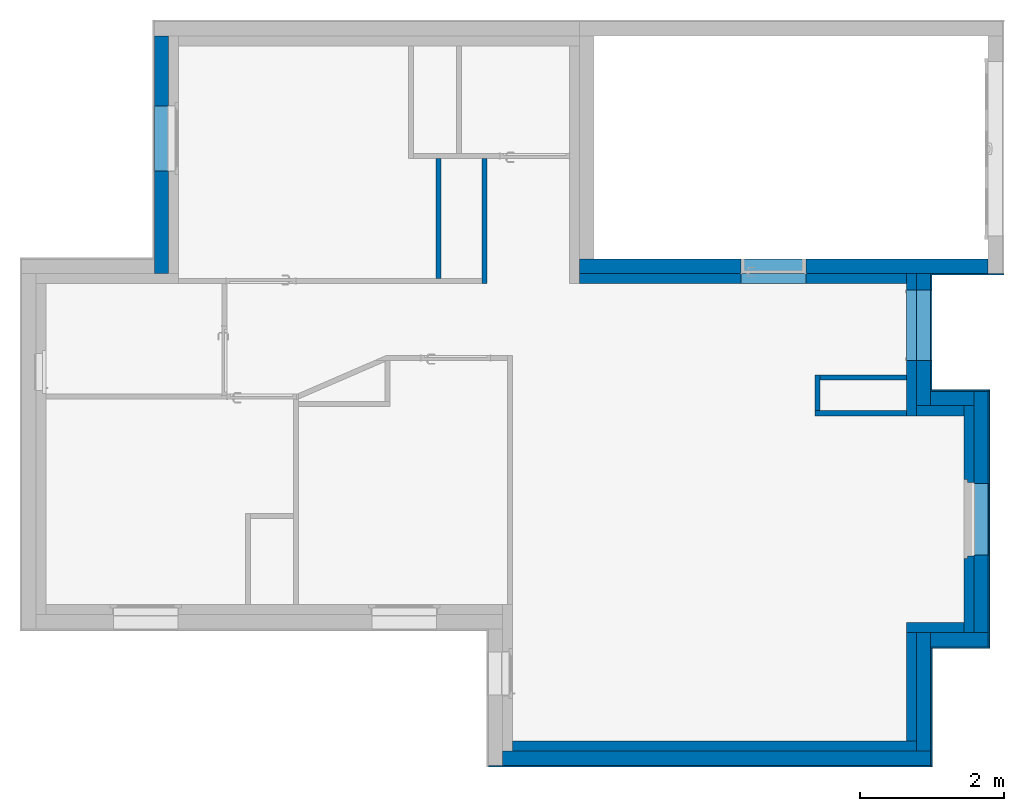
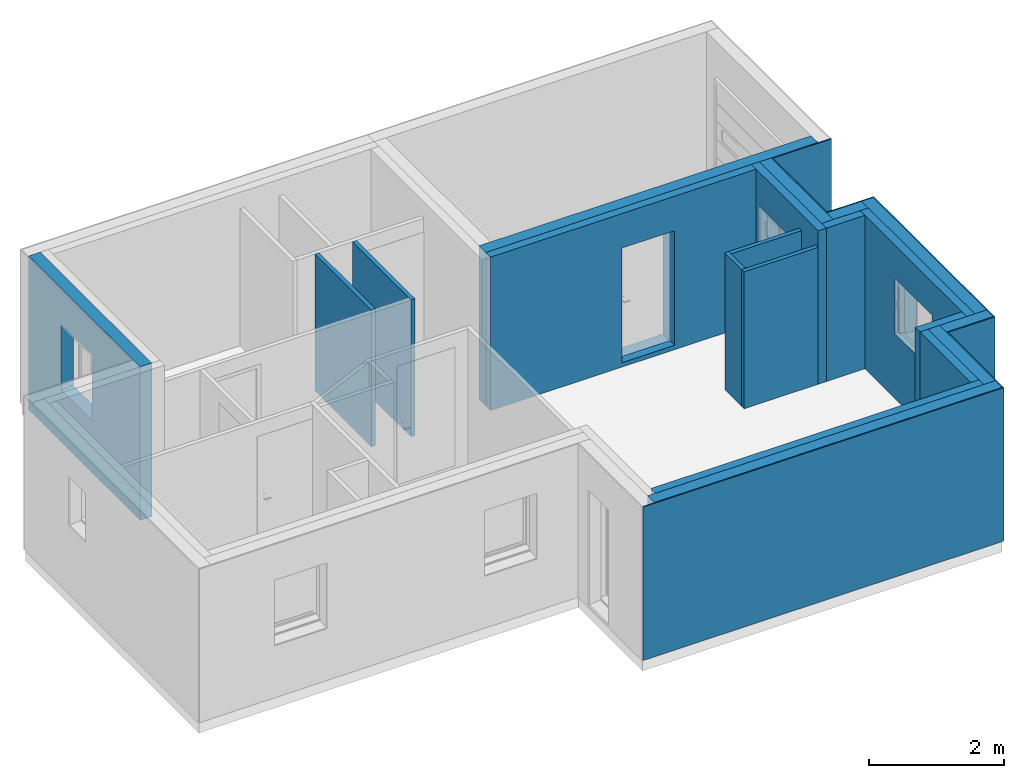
# One storey, part 5 of 11: 27 walls, 9 openings.
"""IFC2X3 building model written with IfcOpenShell, lengths in centimetres."""

from ifc_helpers import new_model, entity, si_unit, converted_unit, derived_unit, direction, frame, frame_2d, origin, origin_2d_with_axis, place, context, subcontext, project, spatial, rectangle, extrude, faceted_brep, material, layer, layer_set, layer_usage, type_object, element, save


model = new_model("IFC2X3")

# Units and contexts
model_context = context("Model", 3, precision=0.001, world=origin(), true_north=direction((6.123031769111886e-17, 1.0)))
body_context = subcontext(model_context, "Body", "Model", "MODEL_VIEW")
ifc_project = project(units=[si_unit("LENGTHUNIT", "METRE", prefix="CENTI"), si_unit("AREAUNIT", "SQUARE_METRE"), si_unit("VOLUMEUNIT", "CUBIC_METRE"), converted_unit("PLANEANGLEUNIT", "DEGREE", entity("IfcRatioMeasure", 0.017453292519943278), si_unit("PLANEANGLEUNIT", "RADIAN"), dimensions=[0, 0, 0, 0, 0, 0, 0]), si_unit("MASSUNIT", "GRAM", prefix="KILO"), derived_unit("MASSDENSITYUNIT", [(si_unit("MASSUNIT", "GRAM", prefix="KILO"), 1), (si_unit("LENGTHUNIT", "METRE"), -3)]), derived_unit("MOMENTOFINERTIAUNIT", [(si_unit("LENGTHUNIT", "METRE"), 4)]), si_unit("TIMEUNIT", "SECOND"), si_unit("FREQUENCYUNIT", "HERTZ"), si_unit("THERMODYNAMICTEMPERATUREUNIT", "DEGREE_CELSIUS"), derived_unit("THERMALTRANSMITTANCEUNIT", [(si_unit("MASSUNIT", "GRAM", prefix="KILO"), 1), (si_unit("THERMODYNAMICTEMPERATUREUNIT", "KELVIN"), -1), (si_unit("TIMEUNIT", "SECOND"), -3)]), derived_unit("VOLUMETRICFLOWRATEUNIT", [(si_unit("LENGTHUNIT", "METRE"), 3), (si_unit("TIMEUNIT", "SECOND"), -1)]), derived_unit("MASSFLOWRATEUNIT", [(si_unit("MASSUNIT", "GRAM", prefix="KILO"), 1), (si_unit("TIMEUNIT", "SECOND"), -1)]), derived_unit("ROTATIONALFREQUENCYUNIT", [(si_unit("TIMEUNIT", "SECOND"), -1)]), si_unit("ELECTRICCURRENTUNIT", "AMPERE"), si_unit("ELECTRICVOLTAGEUNIT", "VOLT"), si_unit("POWERUNIT", "WATT"), si_unit("FORCEUNIT", "NEWTON", prefix="KILO"), si_unit("ILLUMINANCEUNIT", "LUX"), si_unit("LUMINOUSFLUXUNIT", "LUMEN"), si_unit("LUMINOUSINTENSITYUNIT", "CANDELA"), derived_unit("USERDEFINED", [(si_unit("MASSUNIT", "GRAM", prefix="KILO"), -1), (si_unit("LENGTHUNIT", "METRE"), -2), (si_unit("TIMEUNIT", "SECOND"), 3), (si_unit("LUMINOUSFLUXUNIT", "LUMEN"), 1)]), derived_unit("SOUNDPOWERUNIT", [(si_unit("MASSUNIT", "GRAM", prefix="KILO"), 1), (si_unit("LENGTHUNIT", "METRE"), 2), (si_unit("TIMEUNIT", "SECOND"), -3)]), derived_unit("SOUNDPRESSUREUNIT", [(si_unit("MASSUNIT", "GRAM", prefix="KILO"), 1), (si_unit("LENGTHUNIT", "METRE"), -1), (si_unit("TIMEUNIT", "SECOND"), -2)]), derived_unit("LINEARVELOCITYUNIT", [(si_unit("LENGTHUNIT", "METRE"), 1), (si_unit("TIMEUNIT", "SECOND"), -1)]), si_unit("PRESSUREUNIT", "PASCAL"), derived_unit("USERDEFINED", [(si_unit("LENGTHUNIT", "METRE"), -2), (si_unit("MASSUNIT", "GRAM", prefix="KILO"), 1), (si_unit("TIMEUNIT", "SECOND"), -2)]), derived_unit("LINEARFORCEUNIT", [(si_unit("MASSUNIT", "GRAM", prefix="KILO"), 1), (si_unit("LENGTHUNIT", "METRE"), 1), (si_unit("TIMEUNIT", "SECOND"), -2), (si_unit("LENGTHUNIT", "METRE"), -1)]), derived_unit("PLANARFORCEUNIT", [(si_unit("MASSUNIT", "GRAM", prefix="KILO"), 1), (si_unit("LENGTHUNIT", "METRE"), 1), (si_unit("TIMEUNIT", "SECOND"), -2), (si_unit("LENGTHUNIT", "METRE"), -2)])], contexts=[model_context])

# Site, building, storey
site_placement = place(None, origin())
site = spatial("IfcSite", under=ifc_project, at=site_placement, Name="Default", CompositionType="ELEMENT")
building_placement = place(site_placement, origin())
building = spatial("IfcBuilding", under=site, at=building_placement, CompositionType="ELEMENT")
storey_placement = place(building_placement, frame((0.0, 0.0, -8.0)))
storey = spatial("IfcBuildingStorey", under=building, at=storey_placement, Name="-0.08_Dessus plancher", CompositionType="ELEMENT", Elevation=-8.000000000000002)

# Wall, opening
ifc_material_1 = material(Name="Maçonnerie - Béton")
ifc_layer_1 = layer(ifc_material_1, 20.0)
ifc_layer_set_1 = layer_set([ifc_layer_1], Name="Mur de base:Mur 20")
ifc_layer_usage_1 = layer_usage(ifc_layer_set_1, "AXIS2", "POSITIVE", -10.0)
wall_type_1 = type_object("IfcWallType", Name="Mur de base:Mur 20", PredefinedType="STANDARD", material=ifc_layer_set_1)
wall_1_placement = place(storey_placement, frame((-285.82536305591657, 590.6042960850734, 0.0), z_axis=(0.0, 0.0, 1.0), x_axis=(-1.0, 0.0, 0.0)))
wall_1 = element("IfcWallStandardCase", 1, at=wall_1_placement, inside=storey, type_object=wall_type_1, material=ifc_layer_usage_1, Name="Mur de base:Mur 20", ObjectType="Mur de base:Mur 20", context=body_context, shape_type="SweptSolid", body=[
    extrude(rectangle(XDim=568.9999999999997, YDim=19.999999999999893, at=frame_2d((284.49999999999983, 1.0835776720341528e-13), x_axis=(-1.0, 0.0))), origin(), (0.0, 0.0, 1.0), 278.00000000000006),
])
opening_1_placement = place(wall_1_placement, frame((254.0, -10.0, 8.0)))
element("IfcOpeningElement", 2, at=opening_1_placement, cuts=wall_1, Name="Int. Simple:PP (0.83m x 2.04m):1", ObjectType="Opening", context=body_context, shape_type="SweptSolid", body=[
    extrude(rectangle(XDim=207.49999999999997, YDim=90.0, at=frame_2d((103.74999999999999, 45.0), x_axis=(1.0, 0.0))), frame((0.0, 0.0, 0.0), z_axis=(0.0, 1.0, 0.0), x_axis=(0.0, 0.0, 1.0)), (0.0, 0.0, 1.0), 20.0),
])

ifc_layer_usage_2 = layer_usage(ifc_layer_set_1, "AXIS2", "POSITIVE", -10.0)
wall_2_placement = place(storey_placement, frame((-1436.8253630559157, 911.6042960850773, 0.0), z_axis=(0.0, 0.0, 1.0), x_axis=(0.0, -1.0, 0.0)))
wall_2 = element("IfcWallStandardCase", 3, at=wall_2_placement, inside=storey, type_object=wall_type_1, material=ifc_layer_usage_2, Name="Mur de base:Mur 20", ObjectType="Mur de base:Mur 20", context=body_context, shape_type="SweptSolid", body=[
    extrude(rectangle(XDim=330.9999999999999, YDim=20.0, at=frame_2d((165.5, -1.4477308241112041e-13), x_axis=(-1.0, 0.0))), origin(), (0.0, 0.0, 1.0), 278.00000000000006),
])
opening_2_placement = place(wall_2_placement, frame((193.0, -33.0, 91.77030941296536)))
element("IfcOpeningElement", 4, at=opening_2_placement, cuts=wall_2, Name="Mur de base:Mur 20", ObjectType="Opening", context=body_context, shape_type="Brep", body=[
    faceted_brep([(-5.0, 45.0, 6.229690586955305), (-5.0, 43.0, 6.229690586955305), (-5.0, 43.0, 121.22969058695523), (-5.0, 0.0, 121.22969058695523), (-5.0, 0.0, 0.0), (-5.0, 45.0, 4.729690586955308), (-95.0, 100.0, 6.229690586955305), (-95.0, 57.0, 6.229690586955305), (-95.0, 57.0, 121.22969058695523), (-95.0, 100.0, 121.22969058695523), (-5.0, 100.0, 6.229690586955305), (-5.0, 57.0, 6.229690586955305), (0.0, 57.0, 6.229690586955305), (0.0, 52.0, 6.229690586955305), (-4.0, 52.0, 6.229690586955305), (-4.0, 43.0, 6.229690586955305), (-95.0, 45.0, 6.229690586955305), (-95.0, 43.0, 6.229690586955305), (-96.0, 43.0, 6.229690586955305), (-96.0, 52.0, 6.229690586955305), (-100.0, 52.0, 6.229690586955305), (-100.0, 57.0, 6.229690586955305), (-5.0, 100.0, 121.22969058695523), (-95.0, 43.0, 121.22969058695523), (-95.0, 0.0, 121.22969058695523), (-95.0, 0.0, 0.0), (-95.0, 45.0, 4.729690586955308), (0.0, 57.0, 126.2296905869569), (0.0, 52.0, 126.2296905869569), (-100.0, 52.0, 126.2296905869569), (-96.0, 52.0, 122.22969058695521), (-4.0, 52.0, 122.22969058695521), (-4.0, 43.0, 122.22969058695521), (-96.0, 43.0, 122.22969058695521), (-5.0, 57.0, 121.22969058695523), (-100.0, 57.0, 126.2296905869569)], [[[0, 1, 2, 3, 4, 5]], [[6, 7, 8, 9]], [[10, 11, 12, 13, 14, 15, 1, 0, 16, 17, 18, 19, 20, 21, 7, 6]], [[10, 6, 9, 22]], [[3, 2, 23, 24]], [[3, 24, 25, 4]], [[4, 25, 26, 5]], [[5, 26, 16, 0]], [[12, 27, 28, 13]], [[13, 28, 29, 20, 19, 30, 31, 14]], [[14, 31, 32, 15]], [[15, 32, 33, 18, 17, 23, 2, 1]], [[11, 34, 8, 7, 21, 35, 27, 12]], [[27, 35, 29, 28]], [[30, 33, 32, 31]], [[29, 35, 21, 20]], [[19, 18, 33, 30]], [[9, 8, 34, 22]], [[24, 23, 17, 16, 26, 25]], [[22, 34, 11, 10]]]),
])

# Wall
ifc_layer_usage_3 = layer_usage(ifc_layer_set_1, "AXIS2", "POSITIVE", -10.0)
wall_3_placement = place(storey_placement, frame((-961.8253630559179, -94.39570391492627, 0.0)))
element("IfcWallStandardCase", 5, at=wall_3_placement, inside=storey, type_object=wall_type_1, material=ifc_layer_usage_3, Name="Mur de base:Mur 20", ObjectType="Mur de base:Mur 20", context=body_context, shape_type="SweptSolid", body=[
    extrude(rectangle(XDim=596.0000000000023, YDim=20.0, at=frame_2d((298.00000000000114, 0.0), x_axis=(-1.0, 0.0))), origin(), (0.0, 0.0, 1.0), 278.00000000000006),
])

# Wall, opening
ifc_layer_usage_4 = layer_usage(ifc_layer_set_1, "AXIS2", "POSITIVE", -10.0)
wall_4_placement = place(storey_placement, frame((-375.82536305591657, 396.60429608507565, 0.0), z_axis=(0.0, 0.0, 1.0), x_axis=(0.0, 1.0, 0.0)))
wall_4 = element("IfcWallStandardCase", 6, at=wall_4_placement, inside=storey, type_object=wall_type_1, material=ifc_layer_usage_4, Name="Mur de base:Mur 20", ObjectType="Mur de base:Mur 20", context=body_context, shape_type="SweptSolid", body=[
    extrude(rectangle(XDim=183.999999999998, YDim=20.000000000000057, at=frame_2d((91.99999999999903, -5.3290705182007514e-14), x_axis=(-1.0, 0.0))), origin(), (0.0, 0.0, 1.0), 278.00000000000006),
])
opening_3_placement = place(wall_4_placement, origin())
element("IfcOpeningElement", 7, at=opening_3_placement, cuts=wall_4, Name="Mur de base:Mur 20", ObjectType="Opening", context=body_context, shape_type="SweptSolid", body=[
    extrude(rectangle(XDim=208.8099999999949, YDim=97.62000000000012, at=origin_2d_with_axis()), frame((112.0, -142.4000000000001, 112.40499999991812), z_axis=(0.0, 1.0, 0.0), x_axis=(0.0, 0.0, 1.0)), (0.0, 0.0, 1.0), 304.7999999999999),
])

# Walls
ifc_layer_usage_5 = layer_usage(ifc_layer_set_1, "AXIS2", "POSITIVE", -10.0)
wall_5_placement = place(storey_placement, frame((-375.8253630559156, -84.3957039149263, 0.0), z_axis=(0.0, 0.0, 1.0), x_axis=(0.0, 1.0, 0.0)))
element("IfcWallStandardCase", 8, at=wall_5_placement, inside=storey, type_object=wall_type_1, material=ifc_layer_usage_5, Name="Mur de base:Mur 20", ObjectType="Mur de base:Mur 20", context=body_context, shape_type="SweptSolid", body=[
    extrude(rectangle(XDim=165.00000000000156, YDim=20.0, at=frame_2d((82.50000000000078, -1.1546319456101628e-14), x_axis=(-1.0, 0.0))), origin(), (0.0, 0.0, 1.0), 278.00000000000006),
])
ifc_layer_usage_6 = layer_usage(ifc_layer_set_1, "AXIS2", "POSITIVE", -10.0)
wall_6_placement = place(storey_placement, frame((-365.8253630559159, 70.60429608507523, 0.0)))
element("IfcWallStandardCase", 9, at=wall_6_placement, inside=storey, type_object=wall_type_1, material=ifc_layer_usage_6, Name="Mur de base:Mur 20", ObjectType="Mur de base:Mur 20", context=body_context, shape_type="SweptSolid", body=[
    extrude(rectangle(XDim=79.9999999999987, YDim=19.999999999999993, at=frame_2d((39.99999999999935, -7.993605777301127e-15), x_axis=(-1.0, 0.0))), origin(), (0.0, 0.0, 1.0), 278.00000000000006),
])

# Wall, opening
ifc_layer_usage_7 = layer_usage(ifc_layer_set_1, "AXIS2", "POSITIVE", -10.0)
wall_7_placement = place(storey_placement, frame((-295.8253630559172, 80.60429608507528, 0.0), z_axis=(0.0, 0.0, 1.0), x_axis=(0.0, 1.0, 0.0)))
wall_7 = element("IfcWallStandardCase", 10, at=wall_7_placement, inside=storey, type_object=wall_type_1, material=ifc_layer_usage_7, Name="Mur de base:Mur 20", ObjectType="Mur de base:Mur 20", context=body_context, shape_type="SweptSolid", body=[
    extrude(rectangle(XDim=336.00000000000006, YDim=20.0, at=frame_2d((168.0000000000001, 3.4638958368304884e-14), x_axis=(-1.0, 0.0))), origin(), (0.0, 0.0, 1.0), 278.00000000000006),
])
opening_4_placement = place(wall_7_placement, frame((103.0, 67.0, 111.77030941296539)))
element("IfcOpeningElement", 11, at=opening_4_placement, cuts=wall_7, Name="Mur de base:Mur 20", ObjectType="Opening", context=body_context, shape_type="Brep", body=[
    faceted_brep([(105.0, -55.0, 6.229690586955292), (105.0, -57.0, 6.229690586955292), (105.0, -57.0, 101.22969058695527), (105.0, -100.0, 101.22969058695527), (105.0, -100.0, 0.0), (105.0, -55.0, 4.729690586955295), (5.0, 0.0, 6.229690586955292), (5.0, -43.0, 6.229690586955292), (5.0, -43.0, 101.22969058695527), (5.0, 0.0, 101.22969058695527), (105.0, 0.0, 6.229690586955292), (105.0, -43.0, 6.229690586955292), (110.0, -43.0, 6.229690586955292), (110.0, -48.0, 6.229690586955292), (106.0, -48.0, 6.229690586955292), (106.0, -57.0, 6.229690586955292), (5.0, -55.0, 6.229690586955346), (5.0, -57.0, 6.229690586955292), (4.0, -57.0, 6.229690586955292), (4.0, -48.0, 6.229690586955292), (0.0, -48.0, 6.229690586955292), (0.0, -43.0, 6.229690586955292), (105.0, 0.0, 101.22969058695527), (5.0, -57.0, 101.22969058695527), (5.0, -100.0, 101.22969058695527), (5.0, -100.0, 0.0), (5.0, -55.0, 4.729690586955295), (110.0, -43.0, 106.22969058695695), (110.0, -48.0, 106.22969058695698), (0.0, -48.0, 106.22969058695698), (4.0, -48.0, 102.22969058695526), (106.0, -48.0, 102.22969058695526), (106.0, -57.0, 102.22969058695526), (4.0, -57.0, 102.22969058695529), (105.0, -43.0, 101.22969058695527), (0.0, -43.0, 106.22969058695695)], [[[0, 1, 2, 3, 4, 5]], [[6, 7, 8, 9]], [[10, 11, 12, 13, 14, 15, 1, 0, 16, 17, 18, 19, 20, 21, 7, 6]], [[10, 6, 9, 22]], [[3, 2, 23, 24]], [[3, 24, 25, 4]], [[4, 25, 26, 5]], [[5, 26, 16, 0]], [[12, 27, 28, 13]], [[13, 28, 29, 20, 19, 30, 31, 14]], [[14, 31, 32, 15]], [[15, 32, 33, 18, 17, 23, 2, 1]], [[11, 34, 8, 7, 21, 35, 27, 12]], [[27, 35, 29, 28]], [[30, 33, 32, 31]], [[29, 35, 21, 20]], [[19, 18, 33, 30]], [[9, 8, 34, 22]], [[24, 23, 17, 16, 26, 25]], [[22, 34, 11, 10]]]),
])

# Walls
ifc_layer_usage_8 = layer_usage(ifc_layer_set_1, "AXIS2", "POSITIVE", -10.0)
wall_8_placement = place(storey_placement, frame((-305.82536305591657, 406.6042960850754, 0.0), z_axis=(0.0, 0.0, 1.0), x_axis=(-1.0, 0.0, 0.0)))
element("IfcWallStandardCase", 12, at=wall_8_placement, inside=storey, type_object=wall_type_1, material=ifc_layer_usage_8, Name="Mur de base:Mur 20", ObjectType="Mur de base:Mur 20", context=body_context, shape_type="SweptSolid", body=[
    extrude(rectangle(XDim=60.0, YDim=20.0, at=frame_2d((30.0, -8.881784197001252e-15), x_axis=(-1.0, 0.0))), origin(), (0.0, 0.0, 1.0), 278.00000000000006),
])
ifc_material_2 = material(Name="Maçonnerie - Enduit")
ifc_layer_2 = layer(ifc_material_2, 2.0)
ifc_layer_set_2 = layer_set([ifc_layer_2], Name="Mur de base:Enduit 2")
ifc_layer_usage_9 = layer_usage(ifc_layer_set_2, "AXIS2", "POSITIVE", -1.0)
wall_type_2 = type_object("IfcWallType", Name="Mur de base:Enduit 2", PredefinedType="STANDARD", material=ifc_layer_set_2)
wall_9_placement = place(storey_placement, frame((-981.8253630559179, -105.3957039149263, 0.0)))
element("IfcWallStandardCase", 13, at=wall_9_placement, inside=storey, type_object=wall_type_2, material=ifc_layer_usage_9, Name="Mur de base:Enduit 2", ObjectType="Mur de base:Enduit 2", context=body_context, shape_type="SweptSolid", body=[
    extrude(rectangle(XDim=618.0000000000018, YDim=2.0000000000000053, at=frame_2d((309.0000000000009, 3.3306690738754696e-15), x_axis=(-1.0, 0.0))), origin(), (0.0, 0.0, 1.0), 278.00000000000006),
])
ifc_layer_usage_10 = layer_usage(ifc_layer_set_2, "AXIS2", "POSITIVE", -1.0)
wall_10_placement = place(storey_placement, frame((-364.8253630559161, -104.3957039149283, 0.0), z_axis=(0.0, 0.0, 1.0), x_axis=(0.0, 1.0, 0.0)))
element("IfcWallStandardCase", 14, at=wall_10_placement, inside=storey, type_object=wall_type_2, material=ifc_layer_usage_10, Name="Mur de base:Enduit 2", ObjectType="Mur de base:Enduit 2", context=body_context, shape_type="SweptSolid", body=[
    extrude(rectangle(XDim=165.00000000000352, YDim=1.9999999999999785, at=frame_2d((82.50000000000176, 0.0), x_axis=(-1.0, 0.0))), origin(), (0.0, 0.0, 1.0), 278.00000000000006),
])
ifc_layer_usage_11 = layer_usage(ifc_layer_set_2, "AXIS2", "POSITIVE", -1.0)
wall_11_placement = place(storey_placement, frame((-365.82536305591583, 59.60429608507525, 0.0)))
element("IfcWallStandardCase", 15, at=wall_11_placement, inside=storey, type_object=wall_type_2, material=ifc_layer_usage_11, Name="Mur de base:Enduit 2", ObjectType="Mur de base:Enduit 2", context=body_context, shape_type="SweptSolid", body=[
    extrude(rectangle(XDim=81.99999999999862, YDim=2.0000000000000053, at=frame_2d((40.99999999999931, -2.220446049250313e-16), x_axis=(-1.0, 0.0))), origin(), (0.0, 0.0, 1.0), 278.00000000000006),
])

# Wall, opening
ifc_layer_usage_12 = layer_usage(ifc_layer_set_2, "AXIS2", "POSITIVE", -1.0)
wall_12_placement = place(storey_placement, frame((-284.8253630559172, 60.60429608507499, 0.0), z_axis=(0.0, 0.0, 1.0), x_axis=(0.0, 1.0, 0.0)))
wall_12 = element("IfcWallStandardCase", 16, at=wall_12_placement, inside=storey, type_object=wall_type_2, material=ifc_layer_usage_12, Name="Mur de base:Enduit 2", ObjectType="Mur de base:Enduit 2", context=body_context, shape_type="SweptSolid", body=[
    extrude(rectangle(XDim=358.0000000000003, YDim=1.9999999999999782, at=frame_2d((179.00000000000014, 1.7208456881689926e-15), x_axis=(-1.0, 0.0))), origin(), (0.0, 0.0, 1.0), 278.00000000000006),
])
opening_5_placement = place(wall_12_placement, frame((123.0, 78.0, 111.77030941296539)))
element("IfcOpeningElement", 17, at=opening_5_placement, cuts=wall_12, Name="Mur de base:Enduit 2", ObjectType="Opening", context=body_context, shape_type="Brep", body=[
    faceted_brep([(105.0, -55.0, 6.229690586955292), (105.0, -57.0, 6.229690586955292), (105.0, -57.0, 101.22969058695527), (105.0, -100.0, 101.22969058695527), (105.0, -100.0, 0.0), (105.0, -55.0, 4.729690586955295), (5.0, 0.0, 6.229690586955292), (5.0, -43.0, 6.229690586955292), (5.0, -43.0, 101.22969058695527), (5.0, 0.0, 101.22969058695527), (105.0, 0.0, 6.229690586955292), (105.0, -43.0, 6.229690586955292), (110.0, -43.0, 6.229690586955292), (110.0, -48.0, 6.229690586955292), (106.0, -48.0, 6.229690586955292), (106.0, -57.0, 6.229690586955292), (5.0, -55.0, 6.229690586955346), (5.0, -57.0, 6.229690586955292), (4.0, -57.0, 6.229690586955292), (4.0, -48.0, 6.229690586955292), (0.0, -48.0, 6.229690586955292), (0.0, -43.0, 6.229690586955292), (105.0, 0.0, 101.22969058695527), (5.0, -57.0, 101.22969058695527), (5.0, -100.0, 101.22969058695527), (5.0, -100.0, 0.0), (5.0, -55.0, 4.729690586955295), (110.0, -43.0, 106.22969058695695), (110.0, -48.0, 106.22969058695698), (0.0, -48.0, 106.22969058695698), (4.0, -48.0, 102.22969058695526), (106.0, -48.0, 102.22969058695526), (106.0, -57.0, 102.22969058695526), (4.0, -57.0, 102.22969058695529), (105.0, -43.0, 101.22969058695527), (0.0, -43.0, 106.22969058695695)], [[[0, 1, 2, 3, 4, 5]], [[6, 7, 8, 9]], [[10, 11, 12, 13, 14, 15, 1, 0, 16, 17, 18, 19, 20, 21, 7, 6]], [[10, 6, 9, 22]], [[3, 2, 23, 24]], [[3, 24, 25, 4]], [[4, 25, 26, 5]], [[5, 26, 16, 0]], [[12, 27, 28, 13]], [[13, 28, 29, 20, 19, 30, 31, 14]], [[14, 31, 32, 15]], [[15, 32, 33, 18, 17, 23, 2, 1]], [[11, 34, 8, 7, 21, 35, 27, 12]], [[27, 35, 29, 28]], [[30, 33, 32, 31]], [[29, 35, 21, 20]], [[19, 18, 33, 30]], [[9, 8, 34, 22]], [[24, 23, 17, 16, 26, 25]], [[22, 34, 11, 10]]]),
])

# Wall
ifc_layer_usage_13 = layer_usage(ifc_layer_set_2, "AXIS2", "POSITIVE", -1.0)
wall_13_placement = place(storey_placement, frame((-285.8253630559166, 417.6042960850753, 0.0), z_axis=(0.0, 0.0, 1.0), x_axis=(-1.0, 0.0, 0.0)))
element("IfcWallStandardCase", 18, at=wall_13_placement, inside=storey, type_object=wall_type_2, material=ifc_layer_usage_13, Name="Mur de base:Enduit 2", ObjectType="Mur de base:Enduit 2", context=body_context, shape_type="SweptSolid", body=[
    extrude(rectangle(XDim=79.9999999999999, YDim=1.9999999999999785, at=frame_2d((39.99999999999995, 0.0), x_axis=(-1.0, 0.0))), origin(), (0.0, 0.0, 1.0), 278.00000000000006),
])

# Wall, opening
ifc_layer_usage_14 = layer_usage(ifc_layer_set_2, "AXIS2", "POSITIVE", -1.0)
wall_14_placement = place(storey_placement, frame((-364.8253630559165, 416.60429608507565, 0.0), z_axis=(0.0, 0.0, 1.0), x_axis=(0.0, 1.0, 0.0)))
wall_14 = element("IfcWallStandardCase", 19, at=wall_14_placement, inside=storey, type_object=wall_type_2, material=ifc_layer_usage_14, Name="Mur de base:Enduit 2", ObjectType="Mur de base:Enduit 2", context=body_context, shape_type="SweptSolid", body=[
    extrude(rectangle(XDim=163.999999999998, YDim=1.9999999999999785, at=frame_2d((81.999999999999, 0.0), x_axis=(-1.0, 0.0))), origin(), (0.0, 0.0, 1.0), 278.00000000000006),
])
opening_6_placement = place(wall_14_placement, origin())
element("IfcOpeningElement", 20, at=opening_6_placement, cuts=wall_14, Name="Mur de base:Enduit 2", ObjectType="Opening", context=body_context, shape_type="SweptSolid", body=[
    extrude(rectangle(XDim=208.8099999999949, YDim=97.62000000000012, at=origin_2d_with_axis()), frame((92.0, -131.40000000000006, 112.40499999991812), z_axis=(0.0, 1.0, 0.0), x_axis=(0.0, 0.0, 1.0)), (0.0, 0.0, 1.0), 304.79999999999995),
])

# Wall
ifc_layer_usage_15 = layer_usage(ifc_layer_set_2, "AXIS2", "POSITIVE", -1.0)
wall_15_placement = place(storey_placement, frame((-363.8253630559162, 579.6042960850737, 0.0)))
element("IfcWallStandardCase", 21, at=wall_15_placement, inside=storey, type_object=wall_type_2, material=ifc_layer_usage_15, Name="Mur de base:Enduit 2", ObjectType="Mur de base:Enduit 2", context=body_context, shape_type="SweptSolid", body=[
    extrude(rectangle(XDim=99.99999999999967, YDim=1.9999999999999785, at=frame_2d((49.99999999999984, 0.0), x_axis=(-1.0, 0.0))), origin(), (0.0, 0.0, 1.0), 278.00000000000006),
])

# Wall, opening
ifc_material_3 = material(Name="Isolant rigide")
ifc_layer_3 = layer(ifc_material_3, 14.0)
ifc_layer_set_3 = layer_set([ifc_layer_3], Name="Mur de base:Doublage 14")
ifc_layer_usage_16 = layer_usage(ifc_layer_set_3, "AXIS2", "NEGATIVE", 7.0)
wall_type_3 = type_object("IfcWallType", Name="Mur de base:Doublage 14", PredefinedType="STANDARD", material=ifc_layer_set_3)
wall_16_placement = place(storey_placement, frame((-854.8253630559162, 573.604296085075, 0.0)))
wall_16 = element("IfcWallStandardCase", 22, at=wall_16_placement, inside=storey, type_object=wall_type_3, material=ifc_layer_usage_16, Name="Mur de base:Doublage 14", ObjectType="Mur de base:Doublage 14", context=body_context, shape_type="SweptSolid", body=[
    extrude(rectangle(XDim=469.0, YDim=13.999999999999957, at=frame_2d((234.5, 5.417888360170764e-14), x_axis=(-1.0, 0.0))), origin(), (0.0, 0.0, 1.0), 278.00000000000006),
])
opening_7_placement = place(wall_16_placement, origin())
element("IfcOpeningElement", 23, at=opening_7_placement, cuts=wall_16, Name="Mur de base:Doublage 14", ObjectType="Opening", context=body_context, shape_type="SweptSolid", body=[
    extrude(rectangle(XDim=207.49999999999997, YDim=90.0, at=frame_2d((-5.3290705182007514e-14, 0.0), x_axis=(0.0, 1.0))), frame((270.0, -145.39999999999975, 111.74999999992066), z_axis=(0.0, 1.0, 0.0), x_axis=(-1.0, 0.0, 0.0)), (0.0, 0.0, 1.0), 304.8),
])

ifc_layer_usage_17 = layer_usage(ifc_layer_set_3, "AXIS2", "NEGATIVE", 7.0)
wall_17_placement = place(storey_placement, frame((-392.8253630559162, 580.6042960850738, 0.0), z_axis=(0.0, 0.0, 1.0), x_axis=(0.0, -1.0, 0.0)))
wall_17 = element("IfcWallStandardCase", 24, at=wall_17_placement, inside=storey, type_object=wall_type_3, material=ifc_layer_usage_17, Name="Mur de base:Doublage 14", ObjectType="Mur de base:Doublage 14", context=body_context, shape_type="SweptSolid", body=[
    extrude(rectangle(XDim=197.99999999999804, YDim=14.00000000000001, at=frame_2d((98.99999999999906, -1.687538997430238e-14), x_axis=(-1.0, 0.0))), origin(), (0.0, 0.0, 1.0), 278.00000000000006),
])
opening_8_placement = place(wall_17_placement, frame((120.81000000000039, 7.0, 8.0)))
element("IfcOpeningElement", 25, at=opening_8_placement, cuts=wall_17, Name="Porte d'entrée gris:90 x 205 cm:1", ObjectType="Opening", context=body_context, shape_type="SweptSolid", body=[
    extrude(rectangle(XDim=208.8099999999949, YDim=97.62000000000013, at=frame_2d((104.40499999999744, 48.810000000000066), x_axis=(1.0, 0.0))), frame((0.0, 0.0, 0.0), z_axis=(0.0, -1.0, 0.0), x_axis=(0.0, 0.0, 1.0)), (0.0, 0.0, 1.0), 14.0),
])

# Wall
ifc_layer_usage_18 = layer_usage(ifc_layer_set_3, "AXIS2", "NEGATIVE", 7.0)
wall_18_placement = place(storey_placement, frame((-385.82536305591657, 389.60429608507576, 0.0)))
element("IfcWallStandardCase", 26, at=wall_18_placement, inside=storey, type_object=wall_type_3, material=ifc_layer_usage_18, Name="Mur de base:Doublage 14", ObjectType="Mur de base:Doublage 14", context=body_context, shape_type="SweptSolid", body=[
    extrude(rectangle(XDim=66.00000000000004, YDim=13.999999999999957, at=frame_2d((33.00000000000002, 3.552713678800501e-15), x_axis=(-1.0, 0.0))), origin(), (0.0, 0.0, 1.0), 278.00000000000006),
])

# Wall, opening
ifc_layer_usage_19 = layer_usage(ifc_layer_set_3, "AXIS2", "NEGATIVE", 7.0)
wall_19_placement = place(storey_placement, frame((-312.82536305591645, 396.6042960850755, 0.0), z_axis=(0.0, 0.0, 1.0), x_axis=(0.0, -1.0, 0.0)))
wall_19 = element("IfcWallStandardCase", 27, at=wall_19_placement, inside=storey, type_object=wall_type_3, material=ifc_layer_usage_19, Name="Mur de base:Doublage 14", ObjectType="Mur de base:Doublage 14", context=body_context, shape_type="SweptSolid", body=[
    extrude(rectangle(XDim=316.0000000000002, YDim=14.00000000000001, at=frame_2d((158.00000000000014, -2.708944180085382e-14), x_axis=(-1.0, 0.0))), origin(), (0.0, 0.0, 1.0), 278.00000000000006),
])
opening_9_placement = place(wall_19_placement, frame((213.0, -50.0, 111.7703094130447), z_axis=(0.0, 0.0, 1.0), x_axis=(0.0, 1.0, 0.0)))
element("IfcOpeningElement", 28, at=opening_9_placement, cuts=wall_19, Name="Mur de base:Doublage 14", ObjectType="Opening", context=body_context, shape_type="Brep", body=[
    faceted_brep([(55.0, 105.0, 6.229690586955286), (57.0, 105.0, 6.229690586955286), (57.0, 105.0, 101.22969058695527), (100.0, 105.0, 101.22969058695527), (100.0, 105.0, 0.0), (55.0, 105.0, 4.7296905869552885), (0.0, 5.0, 6.229690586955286), (43.0, 5.0, 6.229690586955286), (43.0, 5.0, 101.22969058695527), (0.0, 5.0, 101.22969058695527), (0.0, 105.0, 6.229690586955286), (43.0, 105.0, 6.229690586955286), (43.0, 110.0, 6.229690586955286), (48.0, 110.0, 6.229690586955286), (48.0, 106.0, 6.229690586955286), (57.0, 106.0, 6.229690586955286), (55.0, 5.0, 6.22969058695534), (57.0, 5.0, 6.229690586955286), (57.0, 4.0, 6.229690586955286), (48.0, 4.0, 6.229690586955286), (48.0, 0.0, 6.229690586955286), (43.0, 0.0, 6.229690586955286), (0.0, 105.0, 101.22969058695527), (57.0, 5.0, 101.22969058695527), (100.0, 5.0, 101.22969058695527), (100.0, 5.0, 0.0), (55.0, 5.0, 4.7296905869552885), (43.0, 110.0, 106.22969058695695), (48.0, 110.0, 106.22969058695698), (48.0, 0.0, 106.22969058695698), (48.0, 4.0, 102.22969058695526), (48.0, 106.0, 102.22969058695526), (57.0, 106.0, 102.22969058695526), (57.0, 4.0, 102.22969058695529), (43.0, 105.0, 101.22969058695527), (43.0, 0.0, 106.22969058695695)], [[[0, 1, 2, 3, 4, 5]], [[6, 7, 8, 9]], [[10, 11, 12, 13, 14, 15, 1, 0, 16, 17, 18, 19, 20, 21, 7, 6]], [[10, 6, 9, 22]], [[3, 2, 23, 24]], [[3, 24, 25, 4]], [[4, 25, 26, 5]], [[5, 26, 16, 0]], [[12, 27, 28, 13]], [[13, 28, 29, 20, 19, 30, 31, 14]], [[14, 31, 32, 15]], [[15, 32, 33, 18, 17, 23, 2, 1]], [[11, 34, 8, 7, 21, 35, 27, 12]], [[27, 35, 29, 28]], [[30, 33, 32, 31]], [[29, 35, 21, 20]], [[19, 18, 33, 30]], [[9, 8, 34, 22]], [[24, 23, 17, 16, 26, 25]], [[22, 34, 11, 10]]]),
])

# Walls
ifc_layer_usage_20 = layer_usage(ifc_layer_set_3, "AXIS2", "NEGATIVE", 7.0)
wall_20_placement = place(storey_placement, frame((-319.8253630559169, 87.60429608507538, 0.0), z_axis=(0.0, 0.0, 1.0), x_axis=(-1.0, 0.0, 0.0)))
element("IfcWallStandardCase", 29, at=wall_20_placement, inside=storey, type_object=wall_type_3, material=ifc_layer_usage_20, Name="Mur de base:Doublage 14", ObjectType="Mur de base:Doublage 14", context=body_context, shape_type="SweptSolid", body=[
    extrude(rectangle(XDim=79.99999999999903, YDim=14.00000000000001, at=frame_2d((39.99999999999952, 0.0), x_axis=(-1.0, 0.0))), origin(), (0.0, 0.0, 1.0), 278.00000000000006),
])
ifc_layer_usage_21 = layer_usage(ifc_layer_set_3, "AXIS2", "NEGATIVE", 7.0)
wall_21_placement = place(storey_placement, frame((-392.8253630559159, 80.60429608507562, 0.0), z_axis=(0.0, 0.0, 1.0), x_axis=(0.0, -1.0, 0.0)))
element("IfcWallStandardCase", 30, at=wall_21_placement, inside=storey, type_object=wall_type_3, material=ifc_layer_usage_21, Name="Mur de base:Doublage 14", ObjectType="Mur de base:Doublage 14", context=body_context, shape_type="SweptSolid", body=[
    extrude(rectangle(XDim=151.00000000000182, YDim=13.999999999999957, at=frame_2d((75.50000000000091, -1.1546319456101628e-14), x_axis=(-1.0, 0.0))), origin(), (0.0, 0.0, 1.0), 278.00000000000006),
])
ifc_layer_usage_22 = layer_usage(ifc_layer_set_3, "AXIS2", "NEGATIVE", 7.0)
wall_22_placement = place(storey_placement, frame((-385.8253630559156, -77.3957039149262, 0.0), z_axis=(0.0, 0.0, 1.0), x_axis=(-1.0, 0.0, 0.0)))
element("IfcWallStandardCase", 31, at=wall_22_placement, inside=storey, type_object=wall_type_3, material=ifc_layer_usage_22, Name="Mur de base:Doublage 14", ObjectType="Mur de base:Doublage 14", context=body_context, shape_type="SweptSolid", body=[
    extrude(rectangle(XDim=562.0000000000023, YDim=14.00000000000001, at=frame_2d((281.00000000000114, -1.7763568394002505e-15), x_axis=(-1.0, 0.0))), origin(), (0.0, 0.0, 1.0), 278.00000000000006),
])
ifc_material_4 = material(Name="Mur par défaut")
ifc_layer_4 = layer(ifc_material_4, 7.0)
ifc_layer_set_4 = layer_set([ifc_layer_4], Name="Mur de base:Cloison 7cm")
ifc_layer_usage_23 = layer_usage(ifc_layer_set_4, "AXIS2", "NEGATIVE", 3.4999999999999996)
wall_type_4 = type_object("IfcWallType", Name="Mur de base:Cloison 7cm", PredefinedType="STANDARD", material=ifc_layer_set_4)
wall_23_placement = place(storey_placement, frame((-987.325363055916, 740.6042960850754, 0.0), z_axis=(0.0, 0.0, 1.0), x_axis=(0.0, -1.0, 0.0)))
element("IfcWallStandardCase", 32, at=wall_23_placement, inside=storey, type_object=wall_type_4, material=ifc_layer_usage_23, Name="Mur de base:Cloison 7cm", ObjectType="Mur de base:Cloison 7cm", context=body_context, shape_type="SweptSolid", body=[
    extrude(rectangle(XDim=173.99999999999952, YDim=7.00000000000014, at=frame_2d((86.99999999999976, -1.199040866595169e-14), x_axis=(-1.0, 0.0))), origin(), (0.0, 0.0, 1.0), 248.00000000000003),
])
ifc_layer_usage_24 = layer_usage(ifc_layer_set_4, "AXIS2", "NEGATIVE", 3.4999999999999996)
wall_24_placement = place(storey_placement, frame((-1051.3253630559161, 740.6042960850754, 0.0), z_axis=(0.0, 0.0, 1.0), x_axis=(0.0, -1.0, 0.0)))
element("IfcWallStandardCase", 33, at=wall_24_placement, inside=storey, type_object=wall_type_4, material=ifc_layer_usage_24, Name="Mur de base:Cloison 7cm", ObjectType="Mur de base:Cloison 7cm", context=body_context, shape_type="SweptSolid", body=[
    extrude(rectangle(XDim=166.9999999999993, YDim=7.00000000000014, at=frame_2d((83.49999999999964, -1.176836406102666e-14), x_axis=(-1.0, 0.0))), origin(), (0.0, 0.0, 1.0), 248.00000000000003),
])
ifc_layer_usage_25 = layer_usage(ifc_layer_set_4, "AXIS2", "NEGATIVE", 3.4999999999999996)
wall_25_placement = place(storey_placement, frame((-399.8253630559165, 386.10429608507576, 0.0), z_axis=(0.0, 0.0, 1.0), x_axis=(-1.0, 0.0, 0.0)))
element("IfcWallStandardCase", 34, at=wall_25_placement, inside=storey, type_object=wall_type_4, material=ifc_layer_usage_25, Name="Mur de base:Cloison 7cm", ObjectType="Mur de base:Cloison 7cm", context=body_context, shape_type="SweptSolid", body=[
    extrude(rectangle(XDim=126.99999999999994, YDim=7.000000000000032, at=frame_2d((63.49999999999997, 6.439293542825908e-15), x_axis=(-1.0, 0.0))), origin(), (0.0, 0.0, 1.0), 248.00000000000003),
])
ifc_layer_usage_26 = layer_usage(ifc_layer_set_4, "AXIS2", "NEGATIVE", 3.4999999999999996)
wall_26_placement = place(storey_placement, frame((-523.3253630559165, 389.6042960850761, 0.0), z_axis=(0.0, 0.0, 1.0), x_axis=(0.0, 1.0, 0.0)))
element("IfcWallStandardCase", 35, at=wall_26_placement, inside=storey, type_object=wall_type_4, material=ifc_layer_usage_26, Name="Mur de base:Cloison 7cm", ObjectType="Mur de base:Cloison 7cm", context=body_context, shape_type="SweptSolid", body=[
    extrude(rectangle(XDim=50.0, YDim=6.9999999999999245, at=frame_2d((25.0, 0.0), x_axis=(-1.0, 0.0))), origin(), (0.0, 0.0, 1.0), 248.00000000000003),
])
ifc_layer_usage_27 = layer_usage(ifc_layer_set_4, "AXIS2", "NEGATIVE", 3.4999999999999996)
wall_27_placement = place(storey_placement, frame((-519.8253630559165, 436.1042960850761, 0.0)))
element("IfcWallStandardCase", 36, at=wall_27_placement, inside=storey, type_object=wall_type_4, material=ifc_layer_usage_27, Name="Mur de base:Cloison 7cm", ObjectType="Mur de base:Cloison 7cm", context=body_context, shape_type="SweptSolid", body=[
    extrude(rectangle(XDim=119.99999999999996, YDim=7.000000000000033, at=frame_2d((59.99999999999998, 0.0), x_axis=(-1.0, 0.0))), origin(), (0.0, 0.0, 1.0), 248.00000000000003),
])

save(model, "model.ifc")
